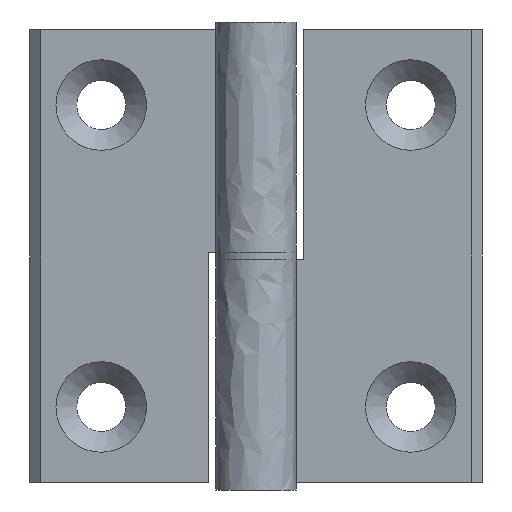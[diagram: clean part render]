
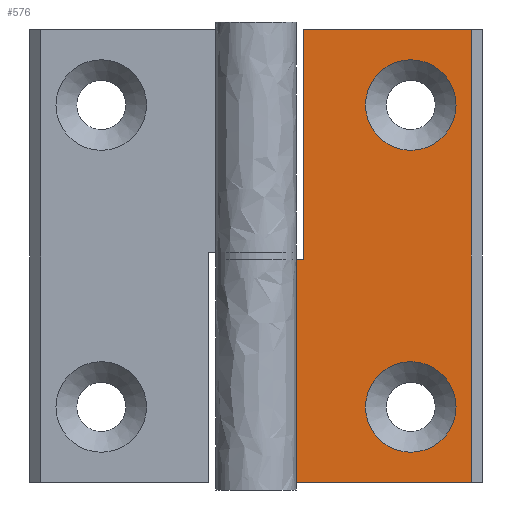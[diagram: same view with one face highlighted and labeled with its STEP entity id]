
A CAD part, front view. The second image highlights one B-rep face of the part: STEP entity #576.
In plain terms, the highlighted free-form (B-spline) face has degree [1, 1] with [2, 2] control points.
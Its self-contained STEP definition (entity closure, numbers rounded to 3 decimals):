
#183=CARTESIAN_POINT('',(11.791,-1.051,-10.0));
#184=VERTEX_POINT('',#183);
#185=CARTESIAN_POINT('',(5.791,-1.051,-10.0));
#186=DIRECTION('',(0.0,-1.0,0.0));
#187=DIRECTION('',(1.0,0.0,0.0));
#188=AXIS2_PLACEMENT_3D('',#185,#186,#187);
#189=CIRCLE('',#188,6.);
#190=EDGE_CURVE('',#184,#184,#189,.T.);
#231=CARTESIAN_POINT('',(11.791,-1.051,-50.0));
#232=VERTEX_POINT('',#231);
#233=CARTESIAN_POINT('',(5.791,-1.051,-50.0));
#234=DIRECTION('',(0.0,-1.0,0.0));
#235=DIRECTION('',(1.0,0.0,0.0));
#236=AXIS2_PLACEMENT_3D('',#233,#234,#235);
#237=CIRCLE('',#236,6.);
#238=EDGE_CURVE('',#232,#232,#237,.T.);
#281=CARTESIAN_POINT('',(-9.371,-1.051,-30.5));
#282=VERTEX_POINT('',#281);
#290=CARTESIAN_POINT('',(-8.459,-1.051,-30.5));
#291=VERTEX_POINT('',#290);
#292=CARTESIAN_POINT('',(-9.371,-1.051,-30.5));
#293=DIRECTION('',(1.0,0.0,0.0));
#294=VECTOR('',#293,0.911);
#295=LINE('',#292,#294);
#296=EDGE_CURVE('',#282,#291,#295,.T.);
#331=CARTESIAN_POINT('',(-8.459,-1.051,0.0));
#332=VERTEX_POINT('',#331);
#333=CARTESIAN_POINT('',(-8.459,-1.051,-30.5));
#334=DIRECTION('',(0.0,0.0,1.0));
#335=VECTOR('',#334,30.5);
#336=LINE('',#333,#335);
#337=EDGE_CURVE('',#291,#332,#336,.T.);
#434=CARTESIAN_POINT('',(-9.371,-1.051,-60.0));
#435=VERTEX_POINT('',#434);
#443=CARTESIAN_POINT('',(-9.371,-1.051,-30.5));
#444=DIRECTION('',(0.0,0.0,-1.0));
#445=VECTOR('',#444,29.5);
#446=LINE('',#443,#445);
#447=EDGE_CURVE('',#282,#435,#446,.T.);
#521=CARTESIAN_POINT('',(13.791,-1.051,-60.0));
#522=VERTEX_POINT('',#521);
#530=CARTESIAN_POINT('',(13.791,-1.051,0.0));
#531=VERTEX_POINT('',#530);
#538=CARTESIAN_POINT('',(13.791,-1.051,0.0));
#539=DIRECTION('',(0.0,0.0,-1.0));
#540=VECTOR('',#539,60.0);
#541=LINE('',#538,#540);
#542=EDGE_CURVE('',#531,#522,#541,.T.);
#547=CARTESIAN_POINT('',(13.791,-1.051,-60.0));
#548=CARTESIAN_POINT('',(13.791,-1.051,0.0));
#549=CARTESIAN_POINT('',(-9.371,-1.051,-60.0));
#550=CARTESIAN_POINT('',(-9.371,-1.051,0.0));
#551=B_SPLINE_SURFACE_WITH_KNOTS('',1,1,((#547,#549),(#548,#550)),.UNSPECIFIED.,.F.,.F.,.U.,(2,2),(2,2),(0.0,60.0),(0.0,23.161),.UNSPECIFIED.);
#552=ORIENTED_EDGE('',*,*,#337,.F.);
#553=ORIENTED_EDGE('',*,*,#296,.F.);
#554=ORIENTED_EDGE('',*,*,#447,.T.);
#555=CARTESIAN_POINT('',(13.791,-1.051,-60.0));
#556=DIRECTION('',(-1.0,0.0,0.0));
#557=VECTOR('',#556,23.161);
#558=LINE('',#555,#557);
#559=EDGE_CURVE('',#522,#435,#558,.T.);
#560=ORIENTED_EDGE('',*,*,#559,.F.);
#561=ORIENTED_EDGE('',*,*,#542,.F.);
#562=CARTESIAN_POINT('',(-8.459,-1.051,0.0));
#563=DIRECTION('',(1.0,0.0,0.0));
#564=VECTOR('',#563,22.25);
#565=LINE('',#562,#564);
#566=EDGE_CURVE('',#332,#531,#565,.T.);
#567=ORIENTED_EDGE('',*,*,#566,.F.);
#568=EDGE_LOOP('',(#552,#553,#554,#560,#561,#567));
#569=FACE_OUTER_BOUND('',#568,.T.);
#570=ORIENTED_EDGE('',*,*,#190,.F.);
#571=EDGE_LOOP('',(#570));
#572=FACE_BOUND('',#571,.T.);
#573=ORIENTED_EDGE('',*,*,#238,.F.);
#574=EDGE_LOOP('',(#573));
#575=FACE_BOUND('',#574,.T.);
#576=ADVANCED_FACE('',(#569,#572,#575),#551,.T.);
